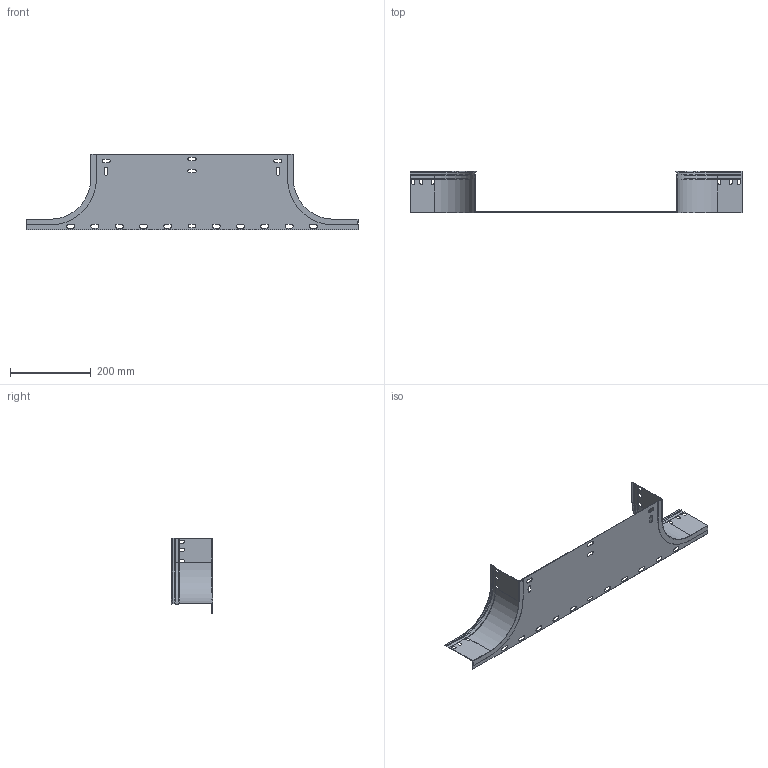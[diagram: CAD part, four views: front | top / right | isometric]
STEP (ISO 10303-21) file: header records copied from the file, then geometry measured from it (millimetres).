
FILE_DESCRIPTION (( 'STEP AP203' ), '1' );
FILE_NAME ('ERE_AS 500x100.step', '2023-07-27T18:50:44', ( '' ), ( '' ), 'SwSTEP 2.0', 'SolidWorks 2022', '' );
FILE_SCHEMA (( 'CONFIG_CONTROL_DESIGN' ));
Length unit declared in the file: millimetre
Products named in the file (3): ERE_AS 500x100; ERE_LATERAL AS_100; ERE_BASE AS_500
Assembly tree (3 placements, depth 2):
  ERE_AS 500x100
    ERE_BASE AS_500
    ERE_LATERAL AS_100  x2
Bounding box: 820 x 102 x 185.5 mm (x, y, z)
Volume: 146194.8 mm3; surface area: 337417.6 mm2
Topology: 3 solids, 3 shells, 234 faces, 672 edges, 420 vertices
Faces by surface type: plane 144, cylinder 76, cone 14
Entity records: 5583 total; most frequent: CARTESIAN_POINT 922, ORIENTED_EDGE 912, DIRECTION 910, EDGE_CURVE 456, VECTOR 322, LINE 322, AXIS2_PLACEMENT_3D 294, VERTEX_POINT 290
